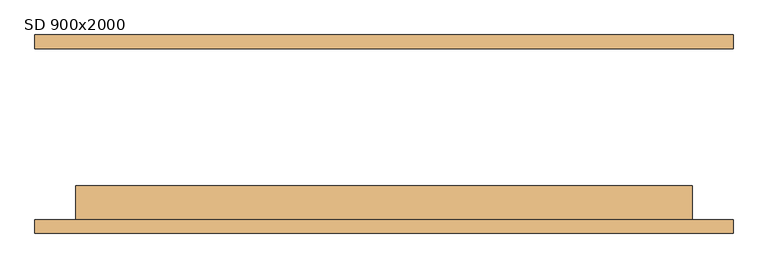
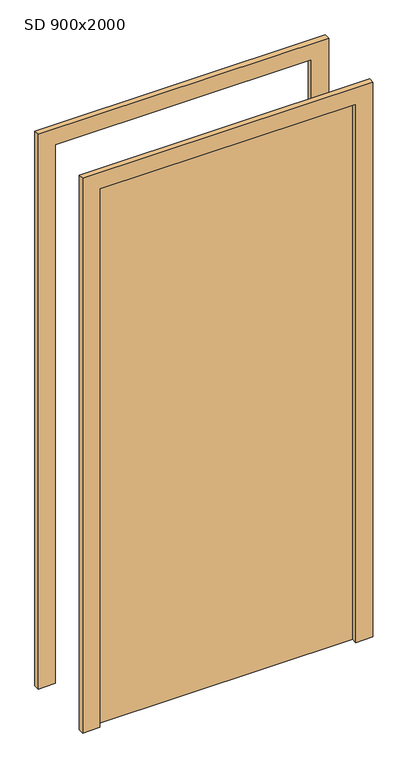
"""IFC4 building model written with IfcOpenShell, lengths in millimetres: door geometry, JednokridlePlne : SD 900x2000."""

from ifc_helpers import new_model, si_unit, frame, origin, origin_with_axes, place, context, project, spatial, polyline, outline, extrude, source, transform, mapped, element, save


def sd_900x2000_a6683946(model_context):
    return source(origin(), model_context, "Body", "SweptSolid", [
        extrude(outline(polyline([(2060.0, -510.0), (0.0, -510.0), (0.0, -450.0), (2000.0, -450.0), (2000.0, 450.0), (0.0, 450.0), (0.0, 510.0), (2060.0, 510.0), (2060.0, -510.0)])), frame((0.0, -145.0, 0.0), z_axis=(0.0, 1.0, 0.0), x_axis=(0.0, 0.0, 1.0)), (0.0, 0.0, 1.0), 20.0),
        extrude(outline(polyline([(2060.0, 510.0), (2060.0, -510.0), (0.0, -510.0), (0.0, -450.0), (2000.0, -450.0), (2000.0, 450.0), (0.0, 450.0), (0.0, 510.0), (2060.0, 510.0)])), frame((0.0, 125.0, 0.0), z_axis=(0.0, 1.0, 0.0), x_axis=(0.0, 0.0, 1.0)), (0.0, 0.0, 1.0), 20.0),
        extrude(outline(polyline([(450.0, -75.0), (450.0, -125.0), (-450.0, -125.0), (-450.0, -75.0), (450.0, -75.0)])), origin_with_axes(), (0.0, 0.0, 1.0), 2000.0),
    ])


if __name__ == "__main__":
    model = new_model("IFC4")
    model_context = context("Model", 3, world=origin())
    ifc_project = project(units=[si_unit("LENGTHUNIT", "METRE", prefix="MILLI")], contexts=[model_context])
    site = spatial("IfcSite", under=ifc_project)
    building = spatial("IfcBuilding", under=site)
    placement = place(None, origin())
    sd_900x2000_shape = sd_900x2000_a6683946(model_context)
    element("IfcDoor", 1, ObjectType="JednokridlePlne : SD 900x2000", at=placement, inside=building, context=model_context, shape_type="MappedRepresentation", body=[
        mapped(sd_900x2000_shape, transform((0.0, 0.0, 0.0), x_axis=(1.0, 0.0, 0.0), y_axis=(0.0, 1.0, 0.0), z_axis=(0.0, 0.0, 1.0))),
    ])
    save(model, "model.ifc")
